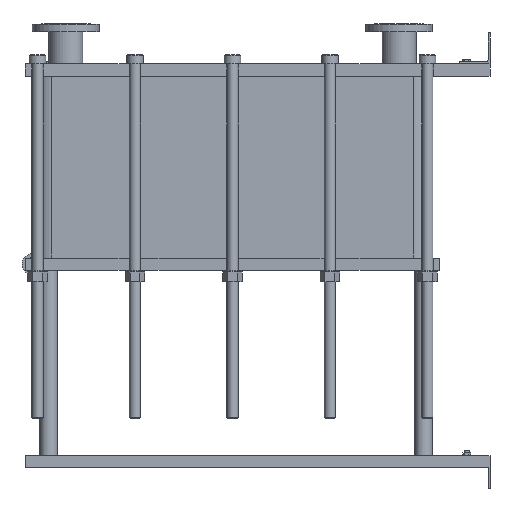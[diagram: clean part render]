
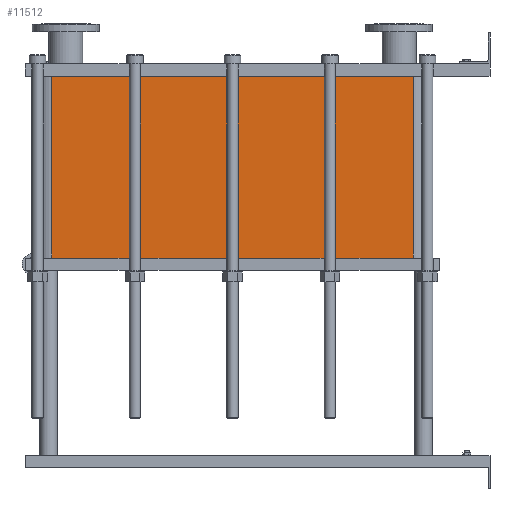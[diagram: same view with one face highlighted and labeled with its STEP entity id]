
A CAD part, left-side view. The second image highlights one B-rep face of the part: STEP entity #11512.
In plain terms, the highlighted planar face has unit normal (-1, 0, 0).
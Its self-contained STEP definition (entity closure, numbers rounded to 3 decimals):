
#1129=LINE('',#23232,#2102);
#1130=LINE('',#23236,#2103);
#1131=LINE('',#23238,#2104);
#1132=LINE('',#23239,#2105);
#2102=VECTOR('',#15887,10.);
#2103=VECTOR('',#15892,10.);
#2104=VECTOR('',#15893,10.);
#2105=VECTOR('',#15894,10.);
#3267=FACE_OUTER_BOUND('',#4093,.T.);
#4093=EDGE_LOOP('',(#10103,#10104,#10105,#10106));
#5642=VERTEX_POINT('',#23229);
#5643=VERTEX_POINT('',#23231);
#5644=VERTEX_POINT('',#23235);
#5645=VERTEX_POINT('',#23237);
#7159=EDGE_CURVE('',#5643,#5642,#1129,.T.);
#7161=EDGE_CURVE('',#5642,#5644,#1130,.T.);
#7162=EDGE_CURVE('',#5645,#5644,#1131,.T.);
#7163=EDGE_CURVE('',#5645,#5643,#1132,.T.);
#10103=ORIENTED_EDGE('',*,*,#7161,.T.);
#10104=ORIENTED_EDGE('',*,*,#7162,.F.);
#10105=ORIENTED_EDGE('',*,*,#7163,.T.);
#10106=ORIENTED_EDGE('',*,*,#7159,.T.);
#10857=PLANE('',#12751);
#11512=ADVANCED_FACE('',(#3267),#10857,.T.);
#12751=AXIS2_PLACEMENT_3D('',#23234,#15890,#15891);
#15887=DIRECTION('',(0.,0.,-1.));
#15890=DIRECTION('center_axis',(-1.,0.,0.));
#15891=DIRECTION('ref_axis',(0.,1.,0.));
#15892=DIRECTION('',(0.,-1.,0.));
#15893=DIRECTION('',(0.,0.,-1.));
#15894=DIRECTION('',(0.,1.,0.));
#23229=CARTESIAN_POINT('',(-200.,1414.,-586.5));
#23231=CARTESIAN_POINT('',(-200.,1414.,0.));
#23232=CARTESIAN_POINT('',(-200.,1414.,0.));
#23234=CARTESIAN_POINT('Origin',(-200.,248.,0.));
#23235=CARTESIAN_POINT('',(-200.,248.,-586.5));
#23236=CARTESIAN_POINT('',(-200.,539.5,-586.5));
#23237=CARTESIAN_POINT('',(-200.,248.,0.));
#23238=CARTESIAN_POINT('',(-200.,248.,0.));
#23239=CARTESIAN_POINT('',(-200.,248.,0.));
